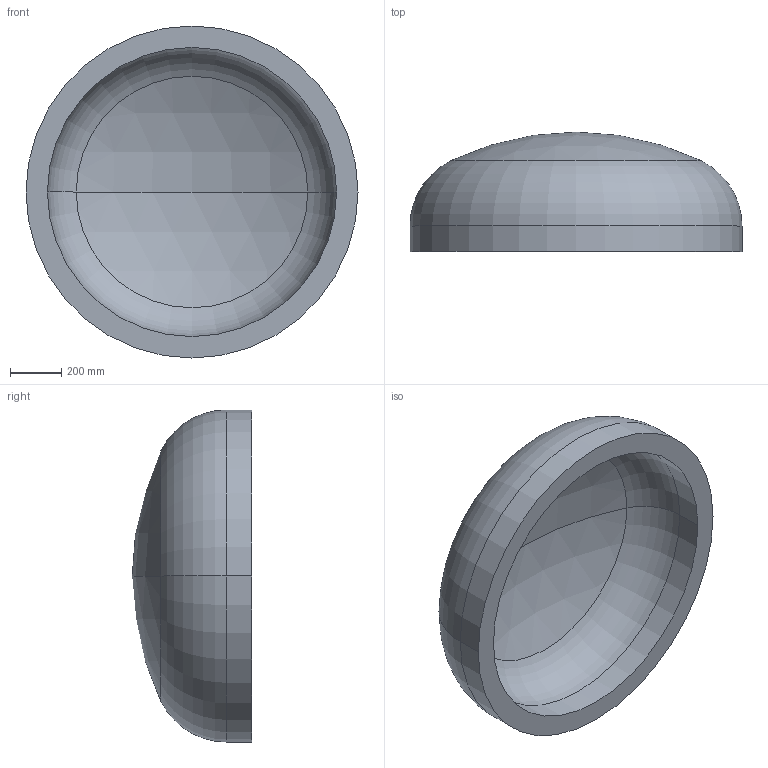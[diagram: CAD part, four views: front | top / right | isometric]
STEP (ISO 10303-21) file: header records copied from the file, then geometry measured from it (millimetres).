
FILE_DESCRIPTION (( 'STEP AP203' ), '1' );
FILE_NAME ('DIN 28013 Korbbogenform_-_Boden DIN 28013 - 1300 x 100 - I - s=84.step', '2016-07-01T09:59:37', ( '' ), ( '' ), 'SwSTEP 2.0', 'SolidWorks 2013', '' );
FILE_SCHEMA (( 'CONFIG_CONTROL_DESIGN' ));
Length unit declared in the file: millimetre
Products named in the file (1): DIN 28013 Korbbogenform_-_Boden DIN 28013 - 1300 x 100 - I - s=84
Bounding box: 1300 x 467.93 x 1300 mm (x, y, z)
Volume: 174312850.6 mm3; surface area: 4485977.9 mm2
Topology: 1 solids, 1 shells, 13 faces, 24 edges, 14 vertices
Faces by surface type: torus 4, cylinder 4, sphere 4, plane 1
Entity records: 407 total; most frequent: DIRECTION 72, CARTESIAN_POINT 52, ORIENTED_EDGE 48, AXIS2_PLACEMENT_3D 34, EDGE_CURVE 24, CIRCLE 20, EDGE_LOOP 14, VERTEX_POINT 14
